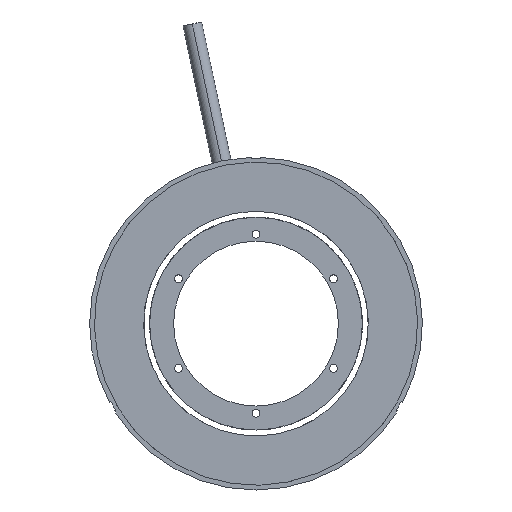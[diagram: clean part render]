
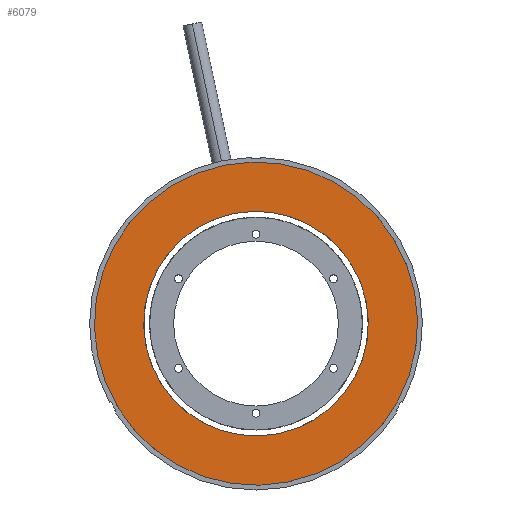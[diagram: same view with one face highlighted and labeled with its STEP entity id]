
A CAD part, front view. The second image highlights one B-rep face of the part: STEP entity #6079.
In plain terms, the highlighted planar face has unit normal (0, -1, 0).
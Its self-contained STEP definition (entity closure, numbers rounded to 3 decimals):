
#208 = ORIENTED_EDGE ( 'NONE', *, *, #1020, .T. ) ;
#551 = EDGE_CURVE ( 'NONE', #6037, #4446, #4342, .T. ) ;
#598 = FACE_OUTER_BOUND ( 'NONE', #4338, .T. ) ;
#793 = AXIS2_PLACEMENT_3D ( 'NONE', #2227, #5395, #1563 ) ;
#1020 = EDGE_CURVE ( 'NONE', #3264, #4622, #7846, .T. ) ;
#1078 = CARTESIAN_POINT ( 'NONE',  ( -3.998, 20.765, 95.73 ) ) ;
#1299 = PLANE ( 'NONE',  #4111 ) ;
#1310 = CARTESIAN_POINT ( 'NONE',  ( 13.089, 20.765, 10.986 ) ) ;
#1563 = DIRECTION ( 'NONE',  ( -0.198, 0., 0.98 ) ) ;
#1774 = ORIENTED_EDGE ( 'NONE', *, *, #5409, .F. ) ;
#1888 = FACE_BOUND ( 'NONE', #4889, .T. ) ;
#1928 = DIRECTION ( 'NONE',  ( -0.198, 0., 0.98 ) ) ;
#2129 = DIRECTION ( 'NONE',  ( -0.198, 0., 0.98 ) ) ;
#2227 = CARTESIAN_POINT ( 'NONE',  ( 3.009, 20.765, 60.98 ) ) ;
#2865 = ORIENTED_EDGE ( 'NONE', *, *, #551, .F. ) ;
#2875 = CARTESIAN_POINT ( 'NONE',  ( 3.009, 20.765, 60.98 ) ) ;
#3264 = VERTEX_POINT ( 'NONE', #1078 ) ;
#3353 = CARTESIAN_POINT ( 'NONE',  ( 3.009, 20.765, 60.98 ) ) ;
#3440 = CARTESIAN_POINT ( 'NONE',  ( 10.016, 20.765, 26.229 ) ) ;
#3857 = DIRECTION ( 'NONE',  ( 0., 1., 0. ) ) ;
#4111 = AXIS2_PLACEMENT_3D ( 'NONE', #7014, #3857, #1928 ) ;
#4156 = DIRECTION ( 'NONE',  ( -0.198, 0., 0.98 ) ) ;
#4338 = EDGE_LOOP ( 'NONE', ( #1774, #2865 ) ) ;
#4342 = CIRCLE ( 'NONE', #4731, 51. ) ;
#4446 = VERTEX_POINT ( 'NONE', #1310 ) ;
#4538 = CARTESIAN_POINT ( 'NONE',  ( -7.072, 20.765, 110.974 ) ) ;
#4622 = VERTEX_POINT ( 'NONE', #3440 ) ;
#4731 = AXIS2_PLACEMENT_3D ( 'NONE', #6048, #7892, #4156 ) ;
#4889 = EDGE_LOOP ( 'NONE', ( #6110, #208 ) ) ;
#5008 = EDGE_CURVE ( 'NONE', #4622, #3264, #5213, .T. ) ;
#5213 = CIRCLE ( 'NONE', #6817, 35.45 ) ;
#5395 = DIRECTION ( 'NONE',  ( 0., 1., 0. ) ) ;
#5409 = EDGE_CURVE ( 'NONE', #4446, #6037, #7760, .T. ) ;
#5570 = AXIS2_PLACEMENT_3D ( 'NONE', #2875, #6624, #2129 ) ;
#5922 = DIRECTION ( 'NONE',  ( -0.198, 0., 0.98 ) ) ;
#6037 = VERTEX_POINT ( 'NONE', #4538 ) ;
#6048 = CARTESIAN_POINT ( 'NONE',  ( 3.009, 20.765, 60.98 ) ) ;
#6079 = ADVANCED_FACE ( 'NONE', ( #598, #1888 ), #1299, .F. ) ;
#6110 = ORIENTED_EDGE ( 'NONE', *, *, #5008, .T. ) ;
#6588 = DIRECTION ( 'NONE',  ( 0., 1., 0. ) ) ;
#6624 = DIRECTION ( 'NONE',  ( 0., 1., 0. ) ) ;
#6817 = AXIS2_PLACEMENT_3D ( 'NONE', #3353, #6588, #5922 ) ;
#7014 = CARTESIAN_POINT ( 'NONE',  ( 3.009, 20.765, 60.98 ) ) ;
#7760 = CIRCLE ( 'NONE', #793, 51. ) ;
#7846 = CIRCLE ( 'NONE', #5570, 35.45 ) ;
#7892 = DIRECTION ( 'NONE',  ( 0., 1., 0. ) ) ;
